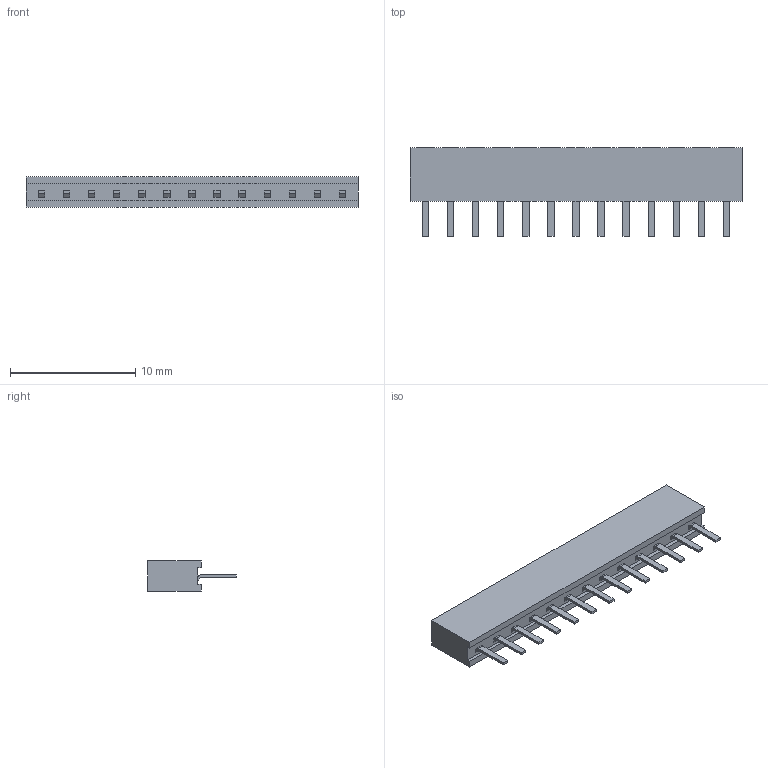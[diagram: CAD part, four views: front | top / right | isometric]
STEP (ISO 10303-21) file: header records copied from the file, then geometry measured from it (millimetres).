
FILE_DESCRIPTION (( 'STEP AP214' ), '1' );
FILE_NAME ('PM200-1-13-Z-4.3-XX(L7.1) (2.00等齬 眻齬譫 呿詢4.3-HCTL).STEP', '2024-11-07T00:48:17', ( '' ), ( '' ), 'SwSTEP 2.0', 'SolidWorks 2022', '' );
FILE_SCHEMA (( 'AUTOMOTIVE_DESIGN' ));
Length unit declared in the file: millimetre
Products named in the file (1): PM200-1-13-Z-4.3-XX(L7.1) (2.00等齬 眻齬譫 呿詢4.3-HCTL)
Bounding box: 26.5 x 7.1 x 2.4 mm (x, y, z)
Volume: 262.1 mm3; surface area: 461.9 mm2
Topology: 1 solids, 1 shells, 244 faces, 596 edges, 380 vertices
Faces by surface type: plane 218, cylinder 26
Entity records: 8317 total; most frequent: CARTESIAN_POINT 1221, ORIENTED_EDGE 1192, DIRECTION 1138, EDGE_CURVE 596, LINE 544, VECTOR 544, VERTEX_POINT 380, AXIS2_PLACEMENT_3D 297
